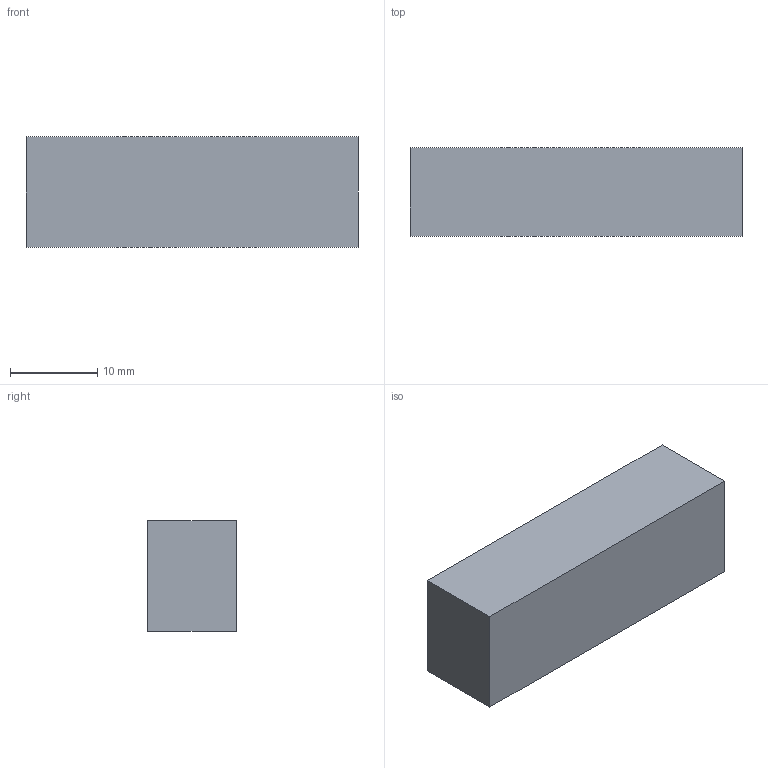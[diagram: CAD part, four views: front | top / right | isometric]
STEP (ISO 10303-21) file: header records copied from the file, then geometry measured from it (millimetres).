
FILE_DESCRIPTION (( 'STEP AP203' ), '1' );
FILE_NAME ('UBEC.step', '2015-03-14T23:36:46', ( '' ), ( '' ), 'SwSTEP 2.0', 'SolidWorks 2013', '' );
FILE_SCHEMA (( 'CONFIG_CONTROL_DESIGN' ));
Length unit declared in the file: inch
Products named in the file (1): UBEC
Bounding box: 38.1 x 10.16 x 12.7 mm (x, y, z)
Volume: 4916.1 mm3; surface area: 2000 mm2
Topology: 1 solids, 1 shells, 6 faces, 12 edges, 8 vertices
Faces by surface type: plane 6
Entity records: 235 total; most frequent: CARTESIAN_POINT 27, DIRECTION 26, ORIENTED_EDGE 24, EDGE_CURVE 12, VECTOR 12, LINE 12, PERSON_AND_ORGANIZATION 8, VERTEX_POINT 8
